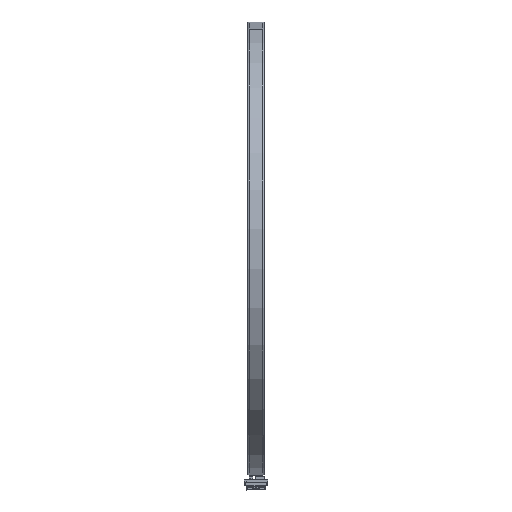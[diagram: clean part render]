
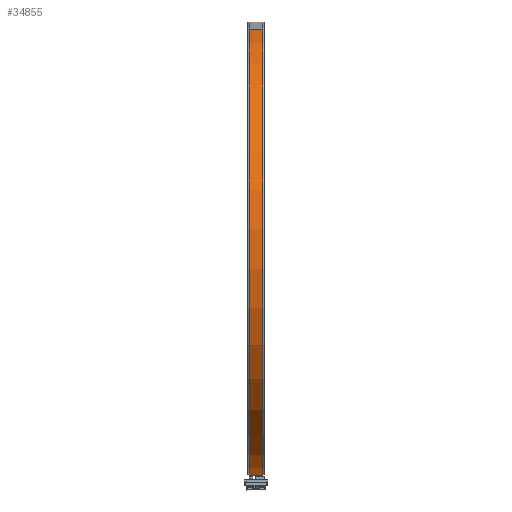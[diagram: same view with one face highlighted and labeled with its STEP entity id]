
A CAD part, left-side view. The second image highlights one B-rep face of the part: STEP entity #34855.
In plain terms, the highlighted cylindrical face has radius 162.83 mm (diameter 325.66 mm), a partial arc.
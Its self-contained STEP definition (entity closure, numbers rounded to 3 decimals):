
#831 = FACE_OUTER_BOUND ( 'NONE', #78483, .T. ) ;
#2401 = VERTEX_POINT ( 'NONE', #57655 ) ;
#4749 = VERTEX_POINT ( 'NONE', #15806 ) ;
#5016 = DIRECTION ( 'NONE',  ( 0., -1., 0. ) ) ;
#5231 = EDGE_CURVE ( 'NONE', #23182, #49615, #50745, .T. ) ;
#7245 = EDGE_CURVE ( 'NONE', #4749, #2401, #15093, .T. ) ;
#12247 = CARTESIAN_POINT ( 'NONE',  ( 0., 11., 0. ) ) ;
#12868 = VECTOR ( 'NONE', #47796, 1000. ) ;
#15093 = CIRCLE ( 'NONE', #59114, 162.83 ) ;
#15733 = AXIS2_PLACEMENT_3D ( 'NONE', #69272, #20140, #19370 ) ;
#15806 = CARTESIAN_POINT ( 'NONE',  ( -42.429, 11., 157.205 ) ) ;
#16491 = LINE ( 'NONE', #64844, #12868 ) ;
#16686 = ORIENTED_EDGE ( 'NONE', *, *, #7245, .T. ) ;
#17140 = ORIENTED_EDGE ( 'NONE', *, *, #5231, .F. ) ;
#19016 = CYLINDRICAL_SURFACE ( 'NONE', #68330, 162.83 ) ;
#19370 = DIRECTION ( 'NONE',  ( -0.261, 0., 0.965 ) ) ;
#20140 = DIRECTION ( 'NONE',  ( 0., -1., 0. ) ) ;
#21131 = LINE ( 'NONE', #44762, #42729 ) ;
#23182 = VERTEX_POINT ( 'NONE', #54100 ) ;
#25488 = CARTESIAN_POINT ( 'NONE',  ( 0., 0., 0. ) ) ;
#27988 = EDGE_CURVE ( 'NONE', #2401, #49615, #21131, .T. ) ;
#29770 = ORIENTED_EDGE ( 'NONE', *, *, #36333, .F. ) ;
#34855 = ADVANCED_FACE ( 'NONE', ( #831 ), #19016, .T. ) ;
#36333 = EDGE_CURVE ( 'NONE', #4749, #23182, #16491, .T. ) ;
#40838 = ORIENTED_EDGE ( 'NONE', *, *, #27988, .T. ) ;
#42729 = VECTOR ( 'NONE', #50436, 1000. ) ;
#44762 = CARTESIAN_POINT ( 'NONE',  ( 42.429, 0., -157.205 ) ) ;
#47796 = DIRECTION ( 'NONE',  ( 0., -1., 0. ) ) ;
#49615 = VERTEX_POINT ( 'NONE', #64380 ) ;
#50436 = DIRECTION ( 'NONE',  ( 0., -1., 0. ) ) ;
#50745 = CIRCLE ( 'NONE', #15733, 162.83 ) ;
#54100 = CARTESIAN_POINT ( 'NONE',  ( -42.429, 1., 157.205 ) ) ;
#57655 = CARTESIAN_POINT ( 'NONE',  ( 42.429, 11., -157.205 ) ) ;
#59114 = AXIS2_PLACEMENT_3D ( 'NONE', #12247, #5016, #73085 ) ;
#64380 = CARTESIAN_POINT ( 'NONE',  ( 42.429, 1., -157.205 ) ) ;
#64844 = CARTESIAN_POINT ( 'NONE',  ( -42.429, 0., 157.205 ) ) ;
#68330 = AXIS2_PLACEMENT_3D ( 'NONE', #25488, #73413, #79885 ) ;
#69272 = CARTESIAN_POINT ( 'NONE',  ( 0., 1., 0. ) ) ;
#73085 = DIRECTION ( 'NONE',  ( -0.261, 0., 0.965 ) ) ;
#73413 = DIRECTION ( 'NONE',  ( 0., -1., 0. ) ) ;
#78483 = EDGE_LOOP ( 'NONE', ( #16686, #40838, #17140, #29770 ) ) ;
#79885 = DIRECTION ( 'NONE',  ( -0.261, 0., 0.965 ) ) ;
